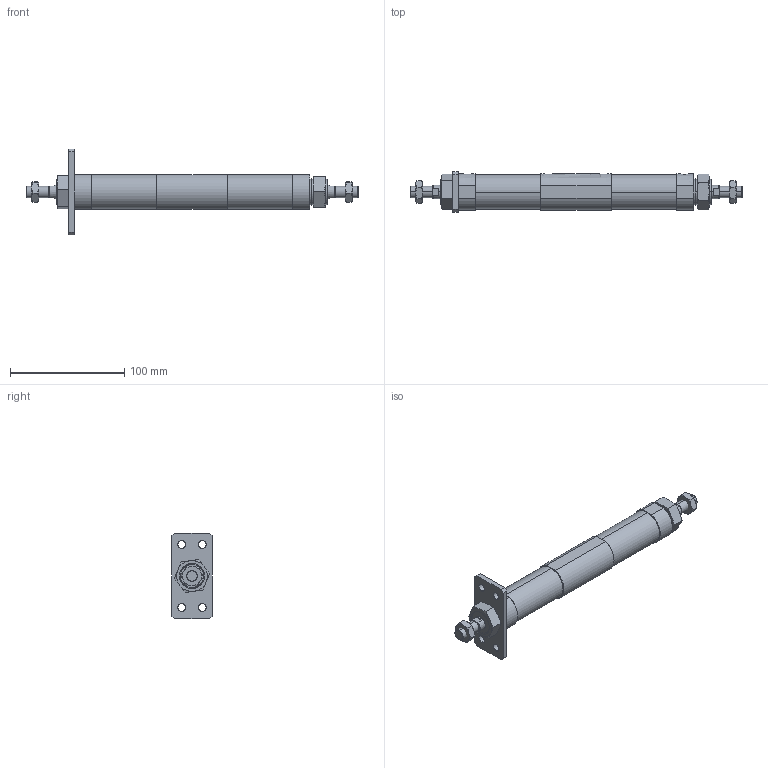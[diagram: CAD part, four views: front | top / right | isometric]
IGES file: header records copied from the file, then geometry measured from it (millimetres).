
Start section: SolidWorks IGES file using analytic representation for surfaces
Global section: file name: C:\Users\Toshiba\Desktop\JGD7-25-25-25-A.IGS; native system: SolidWorks 2014; preprocessor: SolidWorks 2014; author: Toshiba; date: 160419.152216; units: millimetre
Bounding box: 290 x 35 x 75 mm (x, y, z)
Surface area: 45413.3 mm2 (no closed solid volume)
Topology: 0 solids, 0 shells, 192 faces, 3492 edges, 3484 vertices
Faces by surface type: bspline 124, revolution 68
